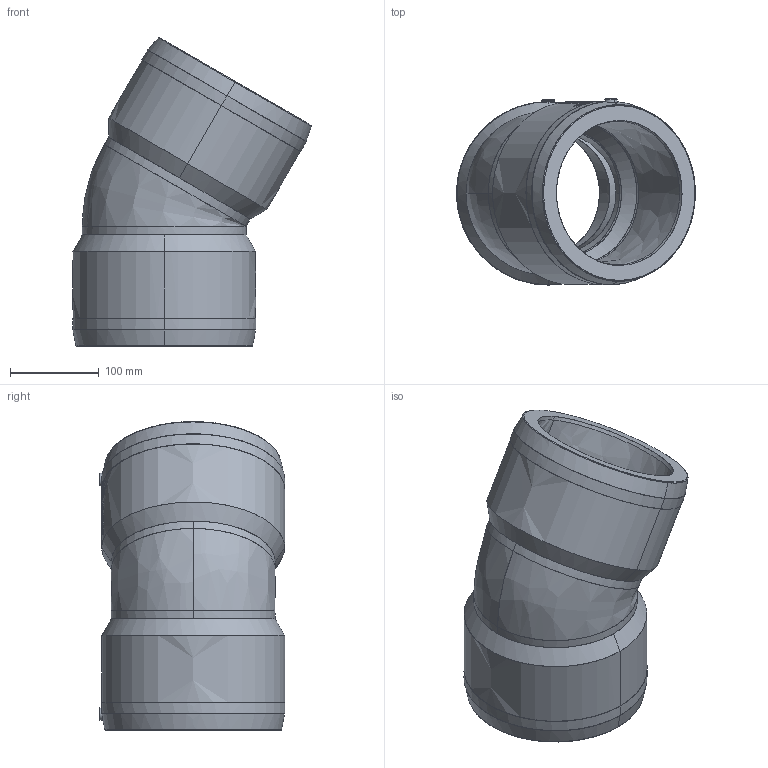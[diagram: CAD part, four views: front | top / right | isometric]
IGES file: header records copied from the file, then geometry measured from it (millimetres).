
Start section:  PTC IGES file: w30_d160_01.igs
Global section: file name: w30_d160_01.igs; native system: Pro/ENGINEER by Parametric Technology Corporation; preprocessor: 2011490; author: mtunjic; organization: Unknown; date: 20130812.095310; units: millimetre
Bounding box: 269.17 x 209.3 x 347.99 mm (x, y, z)
Surface area: 388875.8 mm2 (no closed solid volume)
Topology: 0 solids, 0 shells, 196 faces, 998 edges, 996 vertices
Faces by surface type: bspline 196
